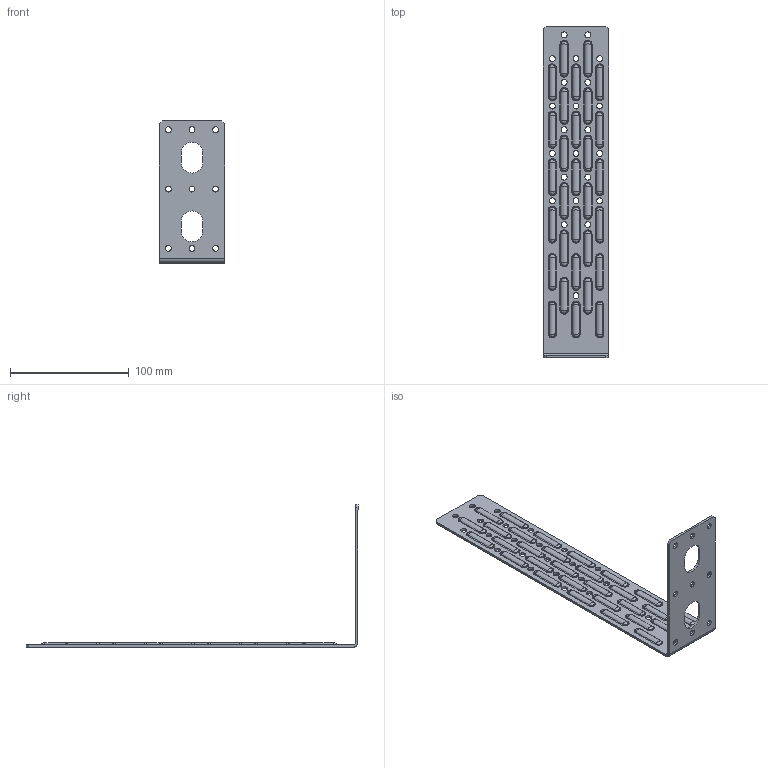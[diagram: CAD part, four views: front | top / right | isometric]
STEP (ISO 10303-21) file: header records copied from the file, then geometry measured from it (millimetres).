
FILE_DESCRIPTION (( 'STEP AP203' ), '1' );
FILE_NAME ('110867.STEP', '2020-01-17T14:24:31', ( '' ), ( '' ), 'SwSTEP 2.0', 'SolidWorks 2013', '' );
FILE_SCHEMA (( 'CONFIG_CONTROL_DESIGN' ));
Length unit declared in the file: millimetre
Products named in the file (1): 110867
Bounding box: 55 x 280 x 120 mm (x, y, z)
Volume: 40999.1 mm3; surface area: 46042.9 mm2
Topology: 1 solids, 1 shells, 566 faces, 1362 edges, 798 vertices
Faces by surface type: bspline 300, cylinder 250, plane 16
Entity records: 35759 total; most frequent: CARTESIAN_POINT 24147, ORIENTED_EDGE 2604, DIRECTION 2006, EDGE_CURVE 1302, AXIS2_PLACEMENT_3D 827, VERTEX_POINT 798, EDGE_LOOP 694, ADVANCED_FACE 566
